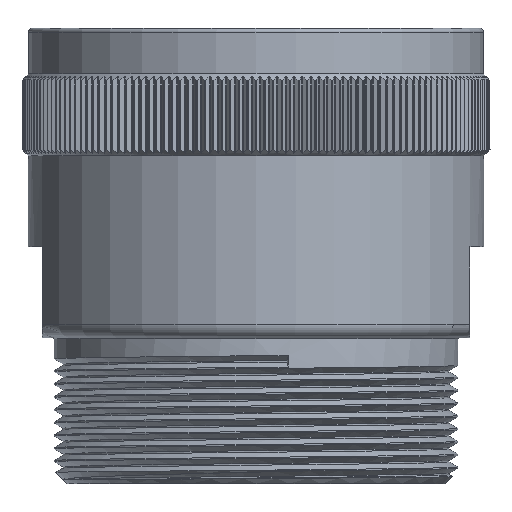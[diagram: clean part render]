
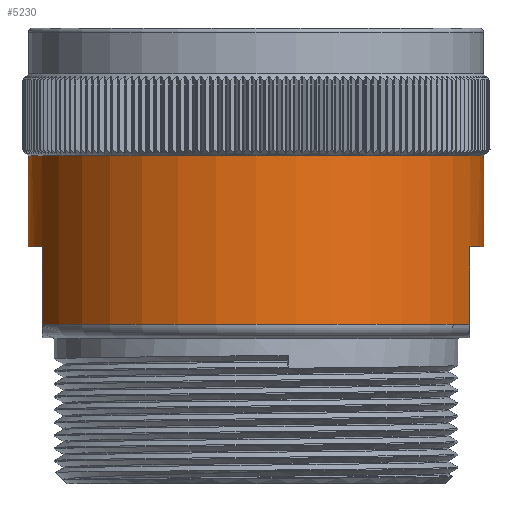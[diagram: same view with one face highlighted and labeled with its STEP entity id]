
A CAD part, front view. The second image highlights one B-rep face of the part: STEP entity #5230.
In plain terms, the highlighted cylindrical face has radius 25 mm (diameter 50 mm), a partial arc.
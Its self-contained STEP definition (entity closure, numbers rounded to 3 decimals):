
#1663 = LINE ( 'NONE', #4578, #20418 ) ;
#2414 = ORIENTED_EDGE ( 'NONE', *, *, #24266, .T. ) ;
#3491 = CARTESIAN_POINT ( 'NONE',  ( -23.5, -8.529, -24. ) ) ;
#4578 = CARTESIAN_POINT ( 'NONE',  ( 25., 0., 0. ) ) ;
#4654 = CARTESIAN_POINT ( 'NONE',  ( 0., 0., -14. ) ) ;
#4841 = DIRECTION ( 'NONE',  ( 1., 0., 0. ) ) ;
#5230 = ADVANCED_FACE ( 'NONE', ( #12873 ), #41493, .T. ) ;
#5303 = EDGE_CURVE ( 'NONE', #38497, #25265, #30373, .T. ) ;
#6112 = EDGE_CURVE ( 'NONE', #35282, #16208, #1663, .T. ) ;
#7709 = CARTESIAN_POINT ( 'NONE',  ( -25., 0., -14. ) ) ;
#8431 = DIRECTION ( 'NONE',  ( 1., 0., 0. ) ) ;
#8491 = VECTOR ( 'NONE', #22481, 1000. ) ;
#9100 = CARTESIAN_POINT ( 'NONE',  ( 23.5, -8.529, -24. ) ) ;
#9185 = AXIS2_PLACEMENT_3D ( 'NONE', #10203, #36302, #13978 ) ;
#9277 = EDGE_LOOP ( 'NONE', ( #37439, #20546, #2414, #12868, #34467, #42125, #32800, #26500 ) ) ;
#9511 = EDGE_CURVE ( 'NONE', #43550, #32234, #37160, .T. ) ;
#10203 = CARTESIAN_POINT ( 'NONE',  ( 0., 0., -24. ) ) ;
#12425 = AXIS2_PLACEMENT_3D ( 'NONE', #41987, #19654, #45765 ) ;
#12868 = ORIENTED_EDGE ( 'NONE', *, *, #25615, .T. ) ;
#12873 = FACE_OUTER_BOUND ( 'NONE', #9277, .T. ) ;
#13978 = DIRECTION ( 'NONE',  ( -1., 0., 0. ) ) ;
#16208 = VERTEX_POINT ( 'NONE', #45388 ) ;
#16669 = CIRCLE ( 'NONE', #44657, 25. ) ;
#17257 = EDGE_CURVE ( 'NONE', #32234, #16208, #35641, .T. ) ;
#19654 = DIRECTION ( 'NONE',  ( 0., 0., -1. ) ) ;
#20179 = CARTESIAN_POINT ( 'NONE',  ( 0., 0., -32.5 ) ) ;
#20418 = VECTOR ( 'NONE', #27006, 1000. ) ;
#20546 = ORIENTED_EDGE ( 'NONE', *, *, #39354, .F. ) ;
#22481 = DIRECTION ( 'NONE',  ( 0., 0., -1. ) ) ;
#23185 = CARTESIAN_POINT ( 'NONE',  ( 23.5, -8.529, -32.5 ) ) ;
#23488 = CARTESIAN_POINT ( 'NONE',  ( 0., 0., 0. ) ) ;
#23933 = DIRECTION ( 'NONE',  ( 1., 0., 0. ) ) ;
#24266 = EDGE_CURVE ( 'NONE', #40562, #33950, #48230, .T. ) ;
#25265 = VERTEX_POINT ( 'NONE', #23185 ) ;
#25320 = CARTESIAN_POINT ( 'NONE',  ( -23.5, -8.529, -24. ) ) ;
#25615 = EDGE_CURVE ( 'NONE', #33950, #25265, #16669, .T. ) ;
#26227 = DIRECTION ( 'NONE',  ( 0., 0., 1. ) ) ;
#26500 = ORIENTED_EDGE ( 'NONE', *, *, #17257, .F. ) ;
#27006 = DIRECTION ( 'NONE',  ( 0., 0., 1. ) ) ;
#28906 = CARTESIAN_POINT ( 'NONE',  ( 25., 0., -24. ) ) ;
#29210 = AXIS2_PLACEMENT_3D ( 'NONE', #23488, #30990, #4841 ) ;
#30053 = CIRCLE ( 'NONE', #12425, 25. ) ;
#30373 = LINE ( 'NONE', #9100, #39140 ) ;
#30806 = DIRECTION ( 'NONE',  ( 0., 0., 1. ) ) ;
#30990 = DIRECTION ( 'NONE',  ( 0., 0., 1. ) ) ;
#31221 = CARTESIAN_POINT ( 'NONE',  ( -25., 0., -24. ) ) ;
#31233 = CARTESIAN_POINT ( 'NONE',  ( -23.5, -8.529, -32.5 ) ) ;
#31469 = DIRECTION ( 'NONE',  ( 0., 0., -1. ) ) ;
#32234 = VERTEX_POINT ( 'NONE', #7709 ) ;
#32800 = ORIENTED_EDGE ( 'NONE', *, *, #6112, .T. ) ;
#33950 = VERTEX_POINT ( 'NONE', #31233 ) ;
#34278 = CIRCLE ( 'NONE', #9185, 25. ) ;
#34467 = ORIENTED_EDGE ( 'NONE', *, *, #5303, .F. ) ;
#34762 = EDGE_CURVE ( 'NONE', #35282, #38497, #34278, .T. ) ;
#35282 = VERTEX_POINT ( 'NONE', #28906 ) ;
#35641 = CIRCLE ( 'NONE', #40078, 25. ) ;
#36302 = DIRECTION ( 'NONE',  ( 0., 0., -1. ) ) ;
#37160 = LINE ( 'NONE', #44823, #47090 ) ;
#37439 = ORIENTED_EDGE ( 'NONE', *, *, #9511, .F. ) ;
#38497 = VERTEX_POINT ( 'NONE', #43231 ) ;
#39140 = VECTOR ( 'NONE', #31469, 1000. ) ;
#39354 = EDGE_CURVE ( 'NONE', #40562, #43550, #30053, .T. ) ;
#40078 = AXIS2_PLACEMENT_3D ( 'NONE', #4654, #30806, #8431 ) ;
#40562 = VERTEX_POINT ( 'NONE', #25320 ) ;
#41493 = CYLINDRICAL_SURFACE ( 'NONE', #29210, 25. ) ;
#41987 = CARTESIAN_POINT ( 'NONE',  ( 0., 0., -24. ) ) ;
#42125 = ORIENTED_EDGE ( 'NONE', *, *, #34762, .F. ) ;
#43231 = CARTESIAN_POINT ( 'NONE',  ( 23.5, -8.529, -24. ) ) ;
#43550 = VERTEX_POINT ( 'NONE', #31221 ) ;
#44657 = AXIS2_PLACEMENT_3D ( 'NONE', #20179, #46291, #23933 ) ;
#44823 = CARTESIAN_POINT ( 'NONE',  ( -25., 0., 0. ) ) ;
#45388 = CARTESIAN_POINT ( 'NONE',  ( 25., 0., -14. ) ) ;
#45765 = DIRECTION ( 'NONE',  ( 1., 0., 0. ) ) ;
#46291 = DIRECTION ( 'NONE',  ( 0., 0., 1. ) ) ;
#47090 = VECTOR ( 'NONE', #26227, 1000. ) ;
#48230 = LINE ( 'NONE', #3491, #8491 ) ;
